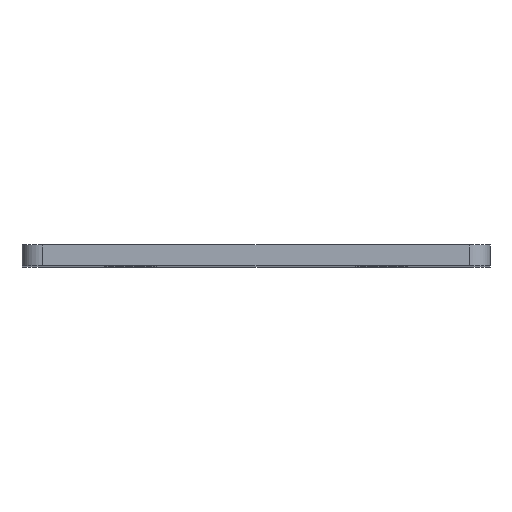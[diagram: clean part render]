
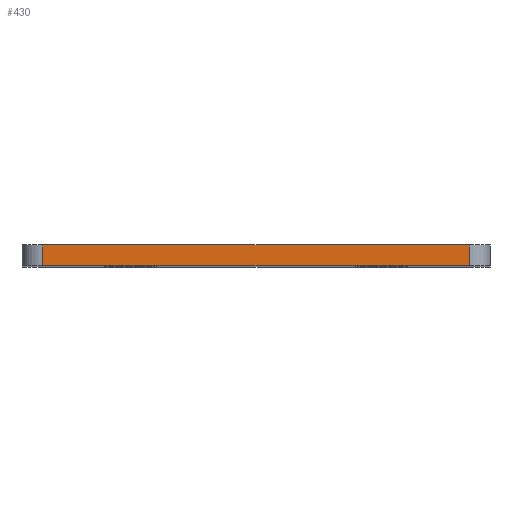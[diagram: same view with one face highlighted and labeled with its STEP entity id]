
A CAD part, top view. The second image highlights one B-rep face of the part: STEP entity #430.
In plain terms, the highlighted planar face has unit normal (0, 0, 1).
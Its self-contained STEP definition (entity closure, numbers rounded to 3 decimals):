
#17 = VERTEX_POINT ( 'NONE', #45 ) ;
#26 = DIRECTION ( 'NONE',  ( 1., 0., 0. ) ) ;
#28 = CARTESIAN_POINT ( 'NONE',  ( -28., 2.5, 73. ) ) ;
#36 = DIRECTION ( 'NONE',  ( 0., -1., 0. ) ) ;
#45 = CARTESIAN_POINT ( 'NONE',  ( 25.5, 0., 73. ) ) ;
#52 = ORIENTED_EDGE ( 'NONE', *, *, #632, .T. ) ;
#65 = VERTEX_POINT ( 'NONE', #401 ) ;
#73 = VECTOR ( 'NONE', #489, 1000. ) ;
#102 = EDGE_LOOP ( 'NONE', ( #52, #136, #215, #455 ) ) ;
#136 = ORIENTED_EDGE ( 'NONE', *, *, #787, .T. ) ;
#195 = VERTEX_POINT ( 'NONE', #543 ) ;
#215 = ORIENTED_EDGE ( 'NONE', *, *, #381, .F. ) ;
#248 = EDGE_CURVE ( 'NONE', #277, #65, #821, .T. ) ;
#260 = CARTESIAN_POINT ( 'NONE',  ( -28., 0., 73. ) ) ;
#272 = VECTOR ( 'NONE', #759, 1000. ) ;
#277 = VERTEX_POINT ( 'NONE', #731 ) ;
#351 = LINE ( 'NONE', #708, #272 ) ;
#381 = EDGE_CURVE ( 'NONE', #277, #195, #464, .T. ) ;
#391 = PLANE ( 'NONE',  #468 ) ;
#401 = CARTESIAN_POINT ( 'NONE',  ( -25.5, 0., 73. ) ) ;
#430 = ADVANCED_FACE ( 'NONE', ( #784 ), #391, .T. ) ;
#433 = VECTOR ( 'NONE', #26, 1000. ) ;
#434 = CARTESIAN_POINT ( 'NONE',  ( -28., 0., 73. ) ) ;
#455 = ORIENTED_EDGE ( 'NONE', *, *, #248, .T. ) ;
#464 = LINE ( 'NONE', #28, #433 ) ;
#468 = AXIS2_PLACEMENT_3D ( 'NONE', #260, #512, #698 ) ;
#489 = DIRECTION ( 'NONE',  ( 1., 0., 0. ) ) ;
#498 = VECTOR ( 'NONE', #36, 1000. ) ;
#512 = DIRECTION ( 'NONE',  ( 0., 0., 1. ) ) ;
#543 = CARTESIAN_POINT ( 'NONE',  ( 25.5, 2.5, 73. ) ) ;
#562 = LINE ( 'NONE', #434, #73 ) ;
#632 = EDGE_CURVE ( 'NONE', #65, #17, #562, .T. ) ;
#698 = DIRECTION ( 'NONE',  ( 1., 0., 0. ) ) ;
#708 = CARTESIAN_POINT ( 'NONE',  ( 25.5, 0., 73. ) ) ;
#727 = CARTESIAN_POINT ( 'NONE',  ( -25.5, 0., 73. ) ) ;
#731 = CARTESIAN_POINT ( 'NONE',  ( -25.5, 2.5, 73. ) ) ;
#759 = DIRECTION ( 'NONE',  ( 0., 1., 0. ) ) ;
#784 = FACE_OUTER_BOUND ( 'NONE', #102, .T. ) ;
#787 = EDGE_CURVE ( 'NONE', #17, #195, #351, .T. ) ;
#821 = LINE ( 'NONE', #727, #498 ) ;
